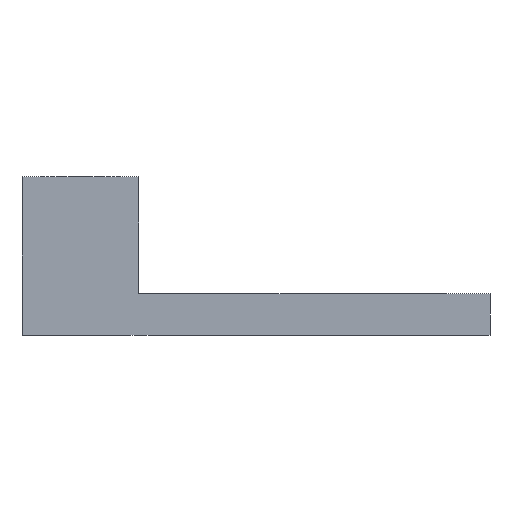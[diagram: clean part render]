
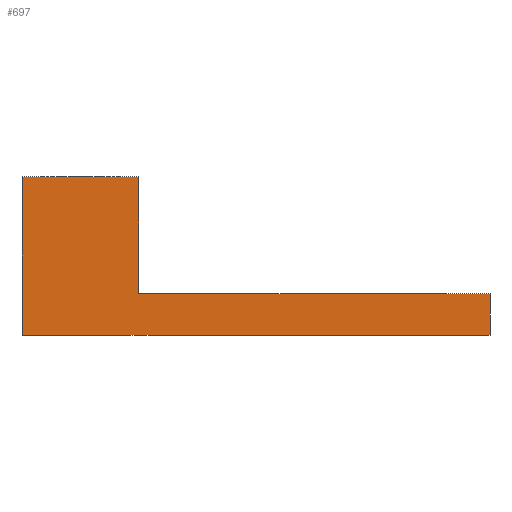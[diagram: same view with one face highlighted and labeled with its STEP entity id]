
A CAD part, front view. The second image highlights one B-rep face of the part: STEP entity #697.
In plain terms, the highlighted planar face has unit normal (0, -1, 0).
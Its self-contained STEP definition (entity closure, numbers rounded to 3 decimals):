
#32 = PLANE('',#33);
#33 = AXIS2_PLACEMENT_3D('',#34,#35,#36);
#34 = CARTESIAN_POINT('',(0.,0.,5.));
#35 = DIRECTION('',(1.,0.,0.));
#36 = DIRECTION('',(0.,1.,0.));
#44 = PLANE('',#45);
#45 = AXIS2_PLACEMENT_3D('',#46,#47,#48);
#46 = CARTESIAN_POINT('',(0.,0.,5.));
#47 = DIRECTION('',(0.,0.,-1.));
#48 = DIRECTION('',(0.,1.,0.));
#85 = VERTEX_POINT('',#86);
#86 = CARTESIAN_POINT('',(0.,0.,19.));
#100 = PLANE('',#101);
#101 = AXIS2_PLACEMENT_3D('',#102,#103,#104);
#102 = CARTESIAN_POINT('',(0.,0.,19.));
#103 = DIRECTION('',(0.,0.,-1.));
#104 = DIRECTION('',(0.,1.,0.));
#112 = EDGE_CURVE('',#113,#85,#115,.T.);
#113 = VERTEX_POINT('',#114);
#114 = CARTESIAN_POINT('',(0.,0.,0.));
#115 = SURFACE_CURVE('',#116,(#120,#127),.PCURVE_S1.);
#116 = LINE('',#117,#118);
#117 = CARTESIAN_POINT('',(0.,0.,0.));
#118 = VECTOR('',#119,1.);
#119 = DIRECTION('',(0.,0.,1.));
#120 = PCURVE('',#32,#121);
#121 = DEFINITIONAL_REPRESENTATION('',(#122),#126);
#122 = LINE('',#123,#124);
#123 = CARTESIAN_POINT('',(0.,-5.));
#124 = VECTOR('',#125,1.);
#125 = DIRECTION('',(0.,1.));
#126 = ( GEOMETRIC_REPRESENTATION_CONTEXT(2) 
PARAMETRIC_REPRESENTATION_CONTEXT() REPRESENTATION_CONTEXT('2D SPACE',''
  ) );
#127 = PCURVE('',#128,#133);
#128 = PLANE('',#129);
#129 = AXIS2_PLACEMENT_3D('',#130,#131,#132);
#130 = CARTESIAN_POINT('',(0.,0.,5.));
#131 = DIRECTION('',(0.,1.,0.));
#132 = DIRECTION('',(1.,0.,0.));
#133 = DEFINITIONAL_REPRESENTATION('',(#134),#138);
#134 = LINE('',#135,#136);
#135 = CARTESIAN_POINT('',(0.,5.));
#136 = VECTOR('',#137,1.);
#137 = DIRECTION('',(0.,-1.));
#138 = ( GEOMETRIC_REPRESENTATION_CONTEXT(2) 
PARAMETRIC_REPRESENTATION_CONTEXT() REPRESENTATION_CONTEXT('2D SPACE',''
  ) );
#156 = PLANE('',#157);
#157 = AXIS2_PLACEMENT_3D('',#158,#159,#160);
#158 = CARTESIAN_POINT('',(0.,0.,0.));
#159 = DIRECTION('',(0.,0.,-1.));
#160 = DIRECTION('',(0.,1.,0.));
#197 = EDGE_CURVE('',#198,#200,#202,.T.);
#198 = VERTEX_POINT('',#199);
#199 = CARTESIAN_POINT('',(14.,0.,5.));
#200 = VERTEX_POINT('',#201);
#201 = CARTESIAN_POINT('',(56.,0.,5.));
#202 = SURFACE_CURVE('',#203,(#207,#214),.PCURVE_S1.);
#203 = LINE('',#204,#205);
#204 = CARTESIAN_POINT('',(0.,0.,5.));
#205 = VECTOR('',#206,1.);
#206 = DIRECTION('',(1.,0.,0.));
#207 = PCURVE('',#44,#208);
#208 = DEFINITIONAL_REPRESENTATION('',(#209),#213);
#209 = LINE('',#210,#211);
#210 = CARTESIAN_POINT('',(0.,0.));
#211 = VECTOR('',#212,1.);
#212 = DIRECTION('',(0.,1.));
#213 = ( GEOMETRIC_REPRESENTATION_CONTEXT(2) 
PARAMETRIC_REPRESENTATION_CONTEXT() REPRESENTATION_CONTEXT('2D SPACE',''
  ) );
#214 = PCURVE('',#128,#215);
#215 = DEFINITIONAL_REPRESENTATION('',(#216),#220);
#216 = LINE('',#217,#218);
#217 = CARTESIAN_POINT('',(0.,0.));
#218 = VECTOR('',#219,1.);
#219 = DIRECTION('',(1.,0.));
#220 = ( GEOMETRIC_REPRESENTATION_CONTEXT(2) 
PARAMETRIC_REPRESENTATION_CONTEXT() REPRESENTATION_CONTEXT('2D SPACE',''
  ) );
#238 = PLANE('',#239);
#239 = AXIS2_PLACEMENT_3D('',#240,#241,#242);
#240 = CARTESIAN_POINT('',(14.,0.,19.));
#241 = DIRECTION('',(1.,0.,0.));
#242 = DIRECTION('',(0.,1.,0.));
#309 = PLANE('',#310);
#310 = AXIS2_PLACEMENT_3D('',#311,#312,#313);
#311 = CARTESIAN_POINT('',(56.,0.,5.));
#312 = DIRECTION('',(1.,0.,0.));
#313 = DIRECTION('',(0.,1.,0.));
#621 = EDGE_CURVE('',#85,#622,#624,.T.);
#622 = VERTEX_POINT('',#623);
#623 = CARTESIAN_POINT('',(14.,0.,19.));
#624 = SURFACE_CURVE('',#625,(#629,#636),.PCURVE_S1.);
#625 = LINE('',#626,#627);
#626 = CARTESIAN_POINT('',(0.,0.,19.));
#627 = VECTOR('',#628,1.);
#628 = DIRECTION('',(1.,0.,0.));
#629 = PCURVE('',#100,#630);
#630 = DEFINITIONAL_REPRESENTATION('',(#631),#635);
#631 = LINE('',#632,#633);
#632 = CARTESIAN_POINT('',(0.,0.));
#633 = VECTOR('',#634,1.);
#634 = DIRECTION('',(0.,1.));
#635 = ( GEOMETRIC_REPRESENTATION_CONTEXT(2) 
PARAMETRIC_REPRESENTATION_CONTEXT() REPRESENTATION_CONTEXT('2D SPACE',''
  ) );
#636 = PCURVE('',#128,#637);
#637 = DEFINITIONAL_REPRESENTATION('',(#638),#642);
#638 = LINE('',#639,#640);
#639 = CARTESIAN_POINT('',(0.,-14.));
#640 = VECTOR('',#641,1.);
#641 = DIRECTION('',(1.,0.));
#642 = ( GEOMETRIC_REPRESENTATION_CONTEXT(2) 
PARAMETRIC_REPRESENTATION_CONTEXT() REPRESENTATION_CONTEXT('2D SPACE',''
  ) );
#697 = ADVANCED_FACE('',(#698),#128,.F.);
#698 = FACE_BOUND('',#699,.F.);
#699 = EDGE_LOOP('',(#700,#701,#702,#723,#724,#747));
#700 = ORIENTED_EDGE('',*,*,#112,.T.);
#701 = ORIENTED_EDGE('',*,*,#621,.T.);
#702 = ORIENTED_EDGE('',*,*,#703,.T.);
#703 = EDGE_CURVE('',#622,#198,#704,.T.);
#704 = SURFACE_CURVE('',#705,(#709,#716),.PCURVE_S1.);
#705 = LINE('',#706,#707);
#706 = CARTESIAN_POINT('',(14.,0.,19.));
#707 = VECTOR('',#708,1.);
#708 = DIRECTION('',(0.,0.,-1.));
#709 = PCURVE('',#128,#710);
#710 = DEFINITIONAL_REPRESENTATION('',(#711),#715);
#711 = LINE('',#712,#713);
#712 = CARTESIAN_POINT('',(14.,-14.));
#713 = VECTOR('',#714,1.);
#714 = DIRECTION('',(0.,1.));
#715 = ( GEOMETRIC_REPRESENTATION_CONTEXT(2) 
PARAMETRIC_REPRESENTATION_CONTEXT() REPRESENTATION_CONTEXT('2D SPACE',''
  ) );
#716 = PCURVE('',#238,#717);
#717 = DEFINITIONAL_REPRESENTATION('',(#718),#722);
#718 = LINE('',#719,#720);
#719 = CARTESIAN_POINT('',(0.,0.));
#720 = VECTOR('',#721,1.);
#721 = DIRECTION('',(0.,-1.));
#722 = ( GEOMETRIC_REPRESENTATION_CONTEXT(2) 
PARAMETRIC_REPRESENTATION_CONTEXT() REPRESENTATION_CONTEXT('2D SPACE',''
  ) );
#723 = ORIENTED_EDGE('',*,*,#197,.T.);
#724 = ORIENTED_EDGE('',*,*,#725,.T.);
#725 = EDGE_CURVE('',#200,#726,#728,.T.);
#726 = VERTEX_POINT('',#727);
#727 = CARTESIAN_POINT('',(56.,0.,0.));
#728 = SURFACE_CURVE('',#729,(#733,#740),.PCURVE_S1.);
#729 = LINE('',#730,#731);
#730 = CARTESIAN_POINT('',(56.,0.,5.));
#731 = VECTOR('',#732,1.);
#732 = DIRECTION('',(0.,0.,-1.));
#733 = PCURVE('',#128,#734);
#734 = DEFINITIONAL_REPRESENTATION('',(#735),#739);
#735 = LINE('',#736,#737);
#736 = CARTESIAN_POINT('',(56.,0.));
#737 = VECTOR('',#738,1.);
#738 = DIRECTION('',(0.,1.));
#739 = ( GEOMETRIC_REPRESENTATION_CONTEXT(2) 
PARAMETRIC_REPRESENTATION_CONTEXT() REPRESENTATION_CONTEXT('2D SPACE',''
  ) );
#740 = PCURVE('',#309,#741);
#741 = DEFINITIONAL_REPRESENTATION('',(#742),#746);
#742 = LINE('',#743,#744);
#743 = CARTESIAN_POINT('',(0.,0.));
#744 = VECTOR('',#745,1.);
#745 = DIRECTION('',(0.,-1.));
#746 = ( GEOMETRIC_REPRESENTATION_CONTEXT(2) 
PARAMETRIC_REPRESENTATION_CONTEXT() REPRESENTATION_CONTEXT('2D SPACE',''
  ) );
#747 = ORIENTED_EDGE('',*,*,#748,.F.);
#748 = EDGE_CURVE('',#113,#726,#749,.T.);
#749 = SURFACE_CURVE('',#750,(#754,#761),.PCURVE_S1.);
#750 = LINE('',#751,#752);
#751 = CARTESIAN_POINT('',(0.,0.,0.));
#752 = VECTOR('',#753,1.);
#753 = DIRECTION('',(1.,0.,0.));
#754 = PCURVE('',#128,#755);
#755 = DEFINITIONAL_REPRESENTATION('',(#756),#760);
#756 = LINE('',#757,#758);
#757 = CARTESIAN_POINT('',(0.,5.));
#758 = VECTOR('',#759,1.);
#759 = DIRECTION('',(1.,0.));
#760 = ( GEOMETRIC_REPRESENTATION_CONTEXT(2) 
PARAMETRIC_REPRESENTATION_CONTEXT() REPRESENTATION_CONTEXT('2D SPACE',''
  ) );
#761 = PCURVE('',#156,#762);
#762 = DEFINITIONAL_REPRESENTATION('',(#763),#767);
#763 = LINE('',#764,#765);
#764 = CARTESIAN_POINT('',(0.,0.));
#765 = VECTOR('',#766,1.);
#766 = DIRECTION('',(0.,1.));
#767 = ( GEOMETRIC_REPRESENTATION_CONTEXT(2) 
PARAMETRIC_REPRESENTATION_CONTEXT() REPRESENTATION_CONTEXT('2D SPACE',''
  ) );
